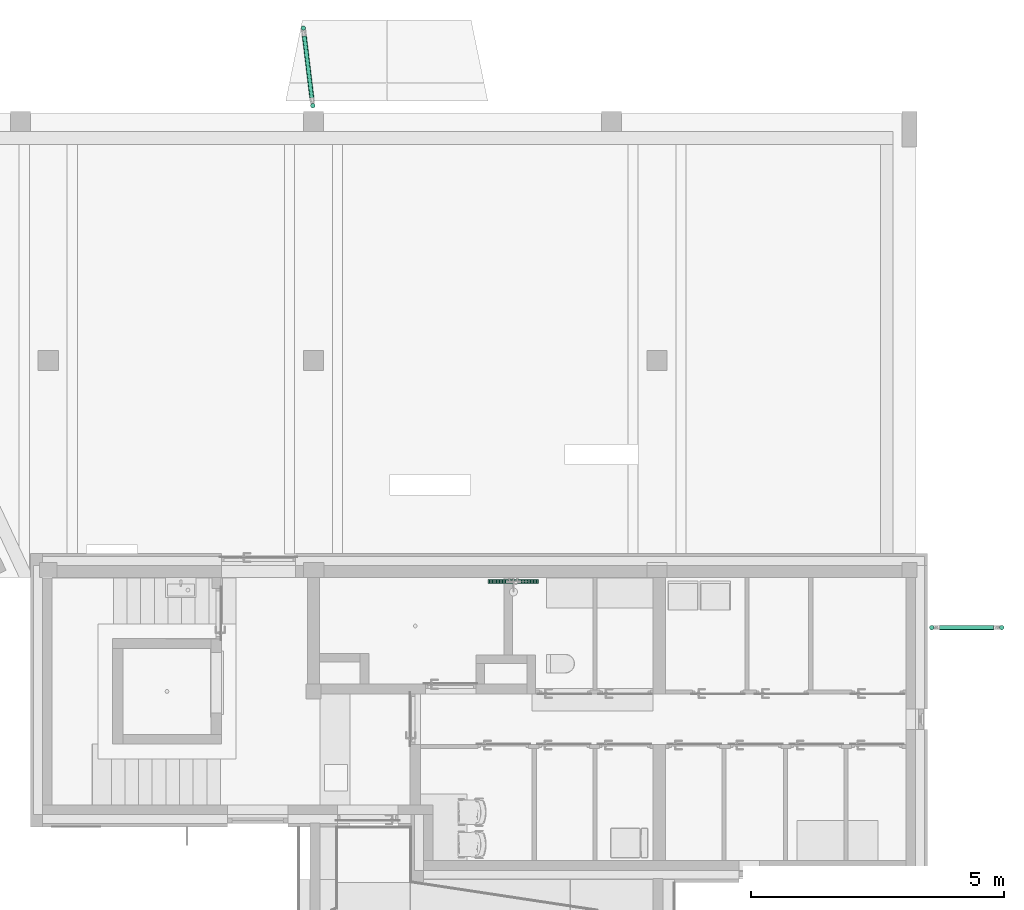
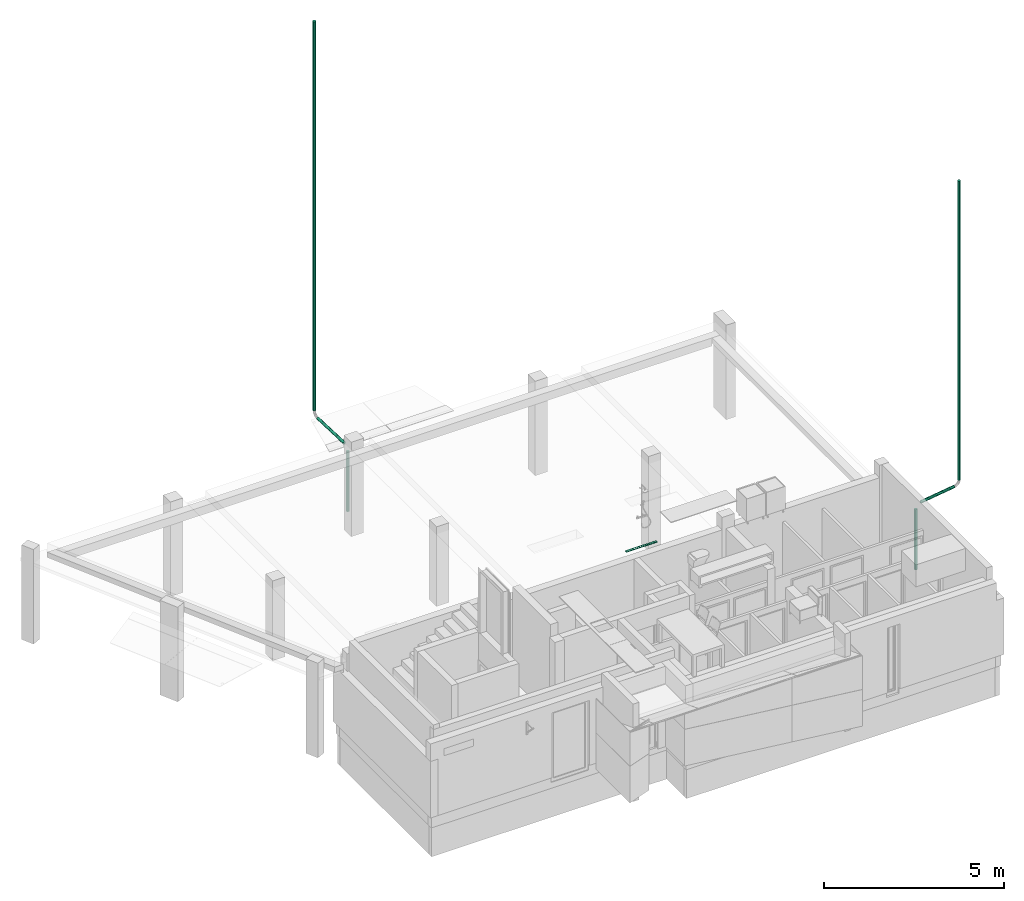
# One storey, part 11 of 55: 6 flow segments, 1 flow terminal.
"""IFC2X3 building model written with IfcOpenShell, lengths in millimetres."""

from ifc_helpers import new_model, entity, si_unit, converted_unit, direction, frame, frame_2d, origin, origin_2d_with_axis, place, context, subcontext, project, spatial, circle, extrude, faceted_brep, source, transform, mapped, material, type_object, type_shapes, element, save


model = new_model("IFC2X3")

# Units and contexts
model_context = context("Model", 3, precision=0.01, world=origin(), true_north=direction((6.123233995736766e-17, 1.0)))
plan_context = context("Plan", 3, precision=0.01, world=origin(), true_north=direction((6.123233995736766e-17, 1.0)))
body_context = subcontext(model_context, "Body", "Model", "MODEL_VIEW")
ifc_project = project(units=[si_unit("LENGTHUNIT", "METRE", prefix="MILLI"), converted_unit("PLANEANGLEUNIT", "DEGREE", entity("IfcPlaneAngleMeasure", 0.017453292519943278), si_unit("PLANEANGLEUNIT", "RADIAN"), dimensions=[0, 0, 0, 0, 0, 0, 0]), si_unit("AREAUNIT", "SQUARE_METRE")], contexts=[model_context, plan_context])

# Site, building, storey, space
site_placement = place(None, origin())
site = spatial("IfcSite", under=ifc_project, at=site_placement, Name="Default", CompositionType="ELEMENT")
building_placement = place(site_placement, origin())
building = spatial("IfcBuilding", under=site, at=building_placement, CompositionType="ELEMENT")
storey_placement = place(building_placement, origin())
storey = spatial("IfcBuildingStorey", under=building, at=storey_placement, Name="1K", CompositionType="ELEMENT", Elevation=0.0)
space_placement = place(storey_placement, origin())
space = spatial("IfcSpace", under=storey, at=space_placement, Name="1-0.6", CompositionType="ELEMENT", InteriorOrExteriorSpace="INTERNAL")

# Flow terminal
ifc_material_1 = material(Name="<Unnamed>")
distribution_element_type = type_object("IfcDistributionElementType", Name="HR_Plumbing-fixtures_Drain_Channel_Generic_v1:Default", material=ifc_material_1)
shared_shape = source(origin(), body_context, "Body", "Brep", [
    faceted_brep([(500.0, 80.0, 0.0), (-500.0, 80.0, 0.0), (-500.0, 0.0, 0.0), (500.0, 0.0, 0.0), (20.0, 70.0, 0.0), (25.0, 70.0, 0.0), (25.0, 10.0, 0.0), (20.0, 10.0, 0.0), (35.0, 70.0, 0.0), (40.0, 70.0, 0.0), (40.0, 10.0, 0.0), (35.0, 10.0, 0.0), (50.0, 70.0, 0.0), (55.0, 70.0, 0.0), (55.0, 10.0, 0.0), (50.0, 10.0, 0.0), (65.0, 70.0, 0.0), (70.0, 70.0, 0.0), (70.0, 10.0, 0.0), (65.0, 10.0, 0.0), (80.0, 70.0, 0.0), (85.0, 70.0, 0.0), (85.0, 10.0, 0.0), (80.0, 10.0, 0.0), (95.0, 70.0, 0.0), (100.0, 70.0, 0.0), (100.0, 10.0, 0.0), (95.0, 10.0, 0.0), (110.0, 70.0, 0.0), (115.0, 70.0, 0.0), (115.0, 10.0, 0.0), (110.0, 10.0, 0.0), (125.0, 70.0, 0.0), (130.0, 70.0, 0.0), (130.0, 10.0, 0.0), (125.0, 10.0, 0.0), (140.0, 70.0, 0.0), (145.0, 70.0, 0.0), (145.0, 10.0, 0.0), (140.0, 10.0, 0.0), (155.0, 70.0, 0.0), (160.0, 70.0, 0.0), (160.0, 10.0, 0.0), (155.0, 10.0, 0.0), (170.0, 70.0, 0.0), (175.0, 70.0, 0.0), (175.0, 10.0, 0.0), (170.0, 10.0, 0.0), (185.0, 70.0, 0.0), (190.0, 70.0, 0.0), (190.0, 10.0, 0.0), (185.0, 10.0, 0.0), (200.0, 70.0, 0.0), (205.0, 70.0, 0.0), (205.0, 10.0, 0.0), (200.0, 10.0, 0.0), (215.0, 70.0, 0.0), (220.0, 70.0, 0.0), (220.0, 10.0, 0.0), (215.0, 10.0, 0.0), (230.0, 70.0, 0.0), (235.0, 70.0, 0.0), (235.0, 10.0, 0.0), (230.0, 10.0, 0.0), (245.0, 70.0, 0.0), (250.0, 70.0, 0.0), (250.0, 10.0, 0.0), (245.0, 10.0, 0.0), (260.0, 70.0, 0.0), (265.0, 70.0, 0.0), (265.0, 10.0, 0.0), (260.0, 10.0, 0.0), (275.0, 70.0, 0.0), (280.0, 70.0, 0.0), (280.0, 10.0, 0.0), (275.0, 10.0, 0.0), (290.0, 70.0, 0.0), (295.0, 70.0, 0.0), (295.0, 10.0, 0.0), (290.0, 10.0, 0.0), (305.0, 70.0, 0.0), (310.0, 70.0, 0.0), (310.0, 10.0, 0.0), (305.0, 10.0, 0.0), (320.0, 70.0, 0.0), (325.0, 70.0, 0.0), (325.0, 10.0, 0.0), (320.0, 10.0, 0.0), (335.0, 70.0, 0.0), (340.0, 70.0, 0.0), (340.0, 10.0, 0.0), (335.0, 10.0, 0.0), (350.0, 70.0, 0.0), (355.0, 70.0, 0.0), (355.0, 10.0, 0.0), (350.0, 10.0, 0.0), (365.0, 70.0, 0.0), (370.0, 70.0, 0.0), (370.0, 10.0, 0.0), (365.0, 10.0, 0.0), (380.0, 70.0, 0.0), (385.0, 70.0, 0.0), (385.0, 10.0, 0.0), (380.0, 10.0, 0.0), (-25.0, 70.0, 0.0), (-20.0, 70.0, 0.0), (-20.0, 10.0, 0.0), (-25.0, 10.0, 0.0), (-40.0, 70.0, 0.0), (-35.0, 70.0, 0.0), (-35.0, 10.0, 0.0), (-40.0, 10.0, 0.0), (-55.0, 70.0, 0.0), (-50.0, 70.0, 0.0), (-50.0, 10.0, 0.0), (-55.0, 10.0, 0.0), (-70.0, 70.0, 0.0), (-65.0, 70.0, 0.0), (-65.0, 10.0, 0.0), (-70.0, 10.0, 0.0), (-85.0, 70.0, 0.0), (-80.0, 70.0, 0.0), (-80.0, 10.0, 0.0), (-85.0, 10.0, 0.0), (-100.0, 70.0, 0.0), (-95.0, 70.0, 0.0), (-95.0, 10.0, 0.0), (-100.0, 10.0, 0.0), (-115.0, 70.0, 0.0), (-110.0, 70.0, 0.0), (-110.0, 10.0, 0.0), (-115.0, 10.0, 0.0), (-130.0, 70.0, 0.0), (-125.0, 70.0, 0.0), (-125.0, 10.0, 0.0), (-130.0, 10.0, 0.0), (-145.0, 70.0, 0.0), (-140.0, 70.0, 0.0), (-140.0, 10.0, 0.0), (-145.0, 10.0, 0.0), (-160.0, 70.0, 0.0), (-155.0, 70.0, 0.0), (-155.0, 10.0, 0.0), (-160.0, 10.0, 0.0), (-175.0, 70.0, 0.0), (-170.0, 70.0, 0.0), (-170.0, 10.0, 0.0), (-175.0, 10.0, 0.0), (-190.0, 70.0, 0.0), (-185.0, 70.0, 0.0), (-185.0, 10.0, 0.0), (-190.0, 10.0, 0.0), (-205.0, 70.0, 0.0), (-200.0, 70.0, 0.0), (-200.0, 10.0, 0.0), (-205.0, 10.0, 0.0), (-220.0, 70.0, 0.0), (-215.0, 70.0, 0.0), (-215.0, 10.0, 0.0), (-220.0, 10.0, 0.0), (-235.0, 70.0, 0.0), (-230.0, 70.0, 0.0), (-230.0, 10.0, 0.0), (-235.0, 10.0, 0.0), (-250.0, 70.0, 0.0), (-245.0, 70.0, 0.0), (-245.0, 10.0, 0.0), (-250.0, 10.0, 0.0), (-265.0, 70.0, 0.0), (-260.0, 70.0, 0.0), (-260.0, 10.0, 0.0), (-265.0, 10.0, 0.0), (-280.0, 70.0, 0.0), (-275.0, 70.0, 0.0), (-275.0, 10.0, 0.0), (-280.0, 10.0, 0.0), (-295.0, 70.0, 0.0), (-290.0, 70.0, 0.0), (-290.0, 10.0, 0.0), (-295.0, 10.0, 0.0), (-310.0, 70.0, 0.0), (-305.0, 70.0, 0.0), (-305.0, 10.0, 0.0), (-310.0, 10.0, 0.0), (-325.0, 70.0, 0.0), (-320.0, 70.0, 0.0), (-320.0, 10.0, 0.0), (-325.0, 10.0, 0.0), (-340.0, 70.0, 0.0), (-335.0, 70.0, 0.0), (-335.0, 10.0, 0.0), (-340.0, 10.0, 0.0), (-355.0, 70.0, 0.0), (-350.0, 70.0, 0.0), (-350.0, 10.0, 0.0), (-355.0, 10.0, 0.0), (-370.0, 70.0, 0.0), (-365.0, 70.0, 0.0), (-365.0, 10.0, 0.0), (-370.0, 10.0, 0.0), (-385.0, 70.0, 0.0), (-380.0, 70.0, 0.0), (-380.0, 10.0, 0.0), (-385.0, 10.0, 0.0), (395.0, 70.0, 0.0), (400.0, 70.0, 0.0), (400.0, 10.0, 0.0), (395.0, 10.0, 0.0), (410.0, 70.0, 0.0), (415.0, 70.0, 0.0), (415.0, 10.0, 0.0), (410.0, 10.0, 0.0), (425.0, 70.0, 0.0), (430.0, 70.0, 0.0), (430.0, 10.0, 0.0), (425.0, 10.0, 0.0), (440.0, 70.0, 0.0), (445.0, 70.0, 0.0), (445.0, 10.0, 0.0), (440.0, 10.0, 0.0), (455.0, 70.0, 0.0), (460.0, 70.0, 0.0), (460.0, 10.0, 0.0), (455.0, 10.0, 0.0), (470.0, 70.0, 0.0), (475.0, 70.0, 0.0), (475.0, 10.0, 0.0), (470.0, 10.0, 0.0), (485.0, 70.0, 0.0), (490.0, 70.0, 0.0), (490.0, 10.0, 0.0), (485.0, 10.0, 0.0), (-400.0, 70.0, 0.0), (-395.0, 70.0, 0.0), (-395.0, 10.0, 0.0), (-400.0, 10.0, 0.0), (-415.0, 70.0, 0.0), (-410.0, 70.0, 0.0), (-410.0, 10.0, 0.0), (-415.0, 10.0, 0.0), (-430.0, 70.0, 0.0), (-425.0, 70.0, 0.0), (-425.0, 10.0, 0.0), (-430.0, 10.0, 0.0), (-445.0, 70.0, 0.0), (-440.0, 70.0, 0.0), (-440.0, 10.0, 0.0), (-445.0, 10.0, 0.0), (-460.0, 70.0, 0.0), (-455.0, 70.0, 0.0), (-455.0, 10.0, 0.0), (-460.0, 10.0, 0.0), (-475.0, 70.0, 0.0), (-470.0, 70.0, 0.0), (-470.0, 10.0, 0.0), (-475.0, 10.0, 0.0), (-490.0, 70.0, 0.0), (-485.0, 70.0, 0.0), (-485.0, 10.0, 0.0), (-490.0, 10.0, 0.0), (-10.0, 70.0, 0.0), (-5.0, 70.0, 0.0), (-5.0, 10.0, 0.0), (-10.0, 10.0, 0.0), (5.0, 70.0, 0.0), (10.0, 70.0, 0.0), (10.0, 10.0, 0.0), (5.0, 10.0, 0.0), (-500.0, 80.0, -20.0), (500.0, 80.0, -20.0), (500.0, 0.0, -20.0), (-500.0, 0.0, -20.0), (498.5000000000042, 78.500000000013, -20.0), (-498.49999999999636, 78.500000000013, -20.0), (-498.49999999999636, 1.5000000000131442, -20.0), (498.5000000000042, 1.5000000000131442, -20.0), (498.5000000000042, 78.500000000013, -1.5000000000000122), (498.5000000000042, 1.5000000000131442, -1.5000000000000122), (-498.49999999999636, 1.5000000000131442, -1.5000000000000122), (-498.49999999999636, 78.500000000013, -1.5000000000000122), (25.0, 70.0, -1.5000000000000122), (20.0, 70.0, -1.5000000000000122), (20.0, 10.0, -1.5000000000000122), (25.0, 10.0, -1.5000000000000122), (40.0, 70.0, -1.5000000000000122), (35.0, 70.0, -1.5000000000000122), (35.0, 10.0, -1.5000000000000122), (40.0, 10.0, -1.5000000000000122), (55.0, 70.0, -1.5000000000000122), (50.0, 70.0, -1.5000000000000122), (50.0, 10.0, -1.5000000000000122), (55.0, 10.0, -1.5000000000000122), (70.0, 70.0, -1.5000000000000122), (65.0, 70.0, -1.5000000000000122), (65.0, 10.0, -1.5000000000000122), (70.0, 10.0, -1.5000000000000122), (85.0, 70.0, -1.5000000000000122), (80.0, 70.0, -1.5000000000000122), (80.0, 10.0, -1.5000000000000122), (85.0, 10.0, -1.5000000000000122), (100.0, 70.0, -1.5000000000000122), (95.0, 70.0, -1.5000000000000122), (95.0, 10.0, -1.5000000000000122), (100.0, 10.0, -1.5000000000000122), (115.0, 70.0, -1.5000000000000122), (110.0, 70.0, -1.5000000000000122), (110.0, 10.0, -1.5000000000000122), (115.0, 10.0, -1.5000000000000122), (130.0, 70.0, -1.5000000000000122), (125.0, 70.0, -1.5000000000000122), (125.0, 10.0, -1.5000000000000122), (130.0, 10.0, -1.5000000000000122), (145.0, 70.0, -1.5000000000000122), (140.0, 70.0, -1.5000000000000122), (140.0, 10.0, -1.5000000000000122), (145.0, 10.0, -1.5000000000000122), (160.0, 70.0, -1.5000000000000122), (155.0, 70.0, -1.5000000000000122), (155.0, 10.0, -1.5000000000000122), (160.0, 10.0, -1.5000000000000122), (175.0, 70.0, -1.5000000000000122), (170.0, 70.0, -1.5000000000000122), (170.0, 10.0, -1.5000000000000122), (175.0, 10.0, -1.5000000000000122), (190.0, 70.0, -1.5000000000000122), (185.0, 70.0, -1.5000000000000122), (185.0, 10.0, -1.5000000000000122), (190.0, 10.0, -1.5000000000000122), (205.0, 70.0, -1.5000000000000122), (200.0, 70.0, -1.5000000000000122), (200.0, 10.0, -1.5000000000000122), (205.0, 10.0, -1.5000000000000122), (220.0, 70.0, -1.5000000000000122), (215.0, 70.0, -1.5000000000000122), (215.0, 10.0, -1.5000000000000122), (220.0, 10.0, -1.5000000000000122), (235.0, 70.0, -1.5000000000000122), (230.0, 70.0, -1.5000000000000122), (230.0, 10.0, -1.5000000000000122), (235.0, 10.0, -1.5000000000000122), (250.0, 70.0, -1.5000000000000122), (245.0, 70.0, -1.5000000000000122), (245.0, 10.0, -1.5000000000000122), (250.0, 10.0, -1.5000000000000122), (265.0, 70.0, -1.5000000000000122), (260.0, 70.0, -1.5000000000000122), (260.0, 10.0, -1.5000000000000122), (265.0, 10.0, -1.5000000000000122), (280.0, 70.0, -1.5000000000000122), (275.0, 70.0, -1.5000000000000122), (275.0, 10.0, -1.5000000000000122), (280.0, 10.0, -1.5000000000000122), (295.0, 70.0, -1.5000000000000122), (290.0, 70.0, -1.5000000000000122), (290.0, 10.0, -1.5000000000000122), (295.0, 10.0, -1.5000000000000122), (310.0, 70.0, -1.5000000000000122), (305.0, 70.0, -1.5000000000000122), (305.0, 10.0, -1.5000000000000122), (310.0, 10.0, -1.5000000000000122), (325.0, 70.0, -1.5000000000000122), (320.0, 70.0, -1.5000000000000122), (320.0, 10.0, -1.5000000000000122), (325.0, 10.0, -1.5000000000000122), (340.0, 70.0, -1.5000000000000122), (335.0, 70.0, -1.5000000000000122), (335.0, 10.0, -1.5000000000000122), (340.0, 10.0, -1.5000000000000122), (355.0, 70.0, -1.5000000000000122), (350.0, 70.0, -1.5000000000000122), (350.0, 10.0, -1.5000000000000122), (355.0, 10.0, -1.5000000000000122), (370.0, 70.0, -1.5000000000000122), (365.0, 70.0, -1.5000000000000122), (365.0, 10.0, -1.5000000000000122), (370.0, 10.0, -1.5000000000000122), (385.0, 70.0, -1.5000000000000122), (380.0, 70.0, -1.5000000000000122), (380.0, 10.0, -1.5000000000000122), (385.0, 10.0, -1.5000000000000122), (-20.0, 70.0, -1.5000000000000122), (-25.0, 70.0, -1.5000000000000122), (-25.0, 10.0, -1.5000000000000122), (-20.0, 10.0, -1.5000000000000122), (-35.0, 70.0, -1.5000000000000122), (-40.0, 70.0, -1.5000000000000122), (-40.0, 10.0, -1.5000000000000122), (-35.0, 10.0, -1.5000000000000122), (-50.0, 70.0, -1.5000000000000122), (-55.0, 70.0, -1.5000000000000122), (-55.0, 10.0, -1.5000000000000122), (-50.0, 10.0, -1.5000000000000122), (-65.0, 70.0, -1.5000000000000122), (-70.0, 70.0, -1.5000000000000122), (-70.0, 10.0, -1.5000000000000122), (-65.0, 10.0, -1.5000000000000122), (-80.0, 70.0, -1.5000000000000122), (-85.0, 70.0, -1.5000000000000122), (-85.0, 10.0, -1.5000000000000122), (-80.0, 10.0, -1.5000000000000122), (-95.0, 70.0, -1.5000000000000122), (-100.0, 70.0, -1.5000000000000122), (-100.0, 10.0, -1.5000000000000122), (-95.0, 10.0, -1.5000000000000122), (-110.0, 70.0, -1.5000000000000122), (-115.0, 70.0, -1.5000000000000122), (-115.0, 10.0, -1.5000000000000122), (-110.0, 10.0, -1.5000000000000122), (-125.0, 70.0, -1.5000000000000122), (-130.0, 70.0, -1.5000000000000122), (-130.0, 10.0, -1.5000000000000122), (-125.0, 10.0, -1.5000000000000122), (-140.0, 70.0, -1.5000000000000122), (-145.0, 70.0, -1.5000000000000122), (-145.0, 10.0, -1.5000000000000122), (-140.0, 10.0, -1.5000000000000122), (-155.0, 70.0, -1.5000000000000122), (-160.0, 70.0, -1.5000000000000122), (-160.0, 10.0, -1.5000000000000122), (-155.0, 10.0, -1.5000000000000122), (-170.0, 70.0, -1.5000000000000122), (-175.0, 70.0, -1.5000000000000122), (-175.0, 10.0, -1.5000000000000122), (-170.0, 10.0, -1.5000000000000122), (-185.0, 70.0, -1.5000000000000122), (-190.0, 70.0, -1.5000000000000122), (-190.0, 10.0, -1.5000000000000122), (-185.0, 10.0, -1.5000000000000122), (-200.0, 70.0, -1.5000000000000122), (-205.0, 70.0, -1.5000000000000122), (-205.0, 10.0, -1.5000000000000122), (-200.0, 10.0, -1.5000000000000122), (-215.0, 70.0, -1.5000000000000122), (-220.0, 70.0, -1.5000000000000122), (-220.0, 10.0, -1.5000000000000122), (-215.0, 10.0, -1.5000000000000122), (-230.0, 70.0, -1.5000000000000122), (-235.0, 70.0, -1.5000000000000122), (-235.0, 10.0, -1.5000000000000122), (-230.0, 10.0, -1.5000000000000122), (-245.0, 70.0, -1.5000000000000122), (-250.0, 70.0, -1.5000000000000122), (-250.0, 10.0, -1.5000000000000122), (-245.0, 10.0, -1.5000000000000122), (-260.0, 70.0, -1.5000000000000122), (-265.0, 70.0, -1.5000000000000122), (-265.0, 10.0, -1.5000000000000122), (-260.0, 10.0, -1.5000000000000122), (-275.0, 70.0, -1.5000000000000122), (-280.0, 70.0, -1.5000000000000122), (-280.0, 10.0, -1.5000000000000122), (-275.0, 10.0, -1.5000000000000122), (-290.0, 70.0, -1.5000000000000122), (-295.0, 70.0, -1.5000000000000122), (-295.0, 10.0, -1.5000000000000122), (-290.0, 10.0, -1.5000000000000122), (-305.0, 70.0, -1.5000000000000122), (-310.0, 70.0, -1.5000000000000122), (-310.0, 10.0, -1.5000000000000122), (-305.0, 10.0, -1.5000000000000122), (-320.0, 70.0, -1.5000000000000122), (-325.0, 70.0, -1.5000000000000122), (-325.0, 10.0, -1.5000000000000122), (-320.0, 10.0, -1.5000000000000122), (-335.0, 70.0, -1.5000000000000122), (-340.0, 70.0, -1.5000000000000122), (-340.0, 10.0, -1.5000000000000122), (-335.0, 10.0, -1.5000000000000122), (-350.0, 70.0, -1.5000000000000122), (-355.0, 70.0, -1.5000000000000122), (-355.0, 10.0, -1.5000000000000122), (-350.0, 10.0, -1.5000000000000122), (-365.0, 70.0, -1.5000000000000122), (-370.0, 70.0, -1.5000000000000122), (-370.0, 10.0, -1.5000000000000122), (-365.0, 10.0, -1.5000000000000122), (-380.0, 70.0, -1.5000000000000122), (-385.0, 70.0, -1.5000000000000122), (-385.0, 10.0, -1.5000000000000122), (-380.0, 10.0, -1.5000000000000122), (400.0, 70.0, -1.5000000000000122), (395.0, 70.0, -1.5000000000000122), (395.0, 10.0, -1.5000000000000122), (400.0, 10.0, -1.5000000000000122), (415.0, 70.0, -1.5000000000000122), (410.0, 70.0, -1.5000000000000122), (410.0, 10.0, -1.5000000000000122), (415.0, 10.0, -1.5000000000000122), (430.0, 70.0, -1.5000000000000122), (425.0, 70.0, -1.5000000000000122), (425.0, 10.0, -1.5000000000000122), (430.0, 10.0, -1.5000000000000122), (445.0, 70.0, -1.5000000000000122), (440.0, 70.0, -1.5000000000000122), (440.0, 10.0, -1.5000000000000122), (445.0, 10.0, -1.5000000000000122), (460.0, 70.0, -1.5000000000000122), (455.0, 70.0, -1.5000000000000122), (455.0, 10.0, -1.5000000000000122), (460.0, 10.0, -1.5000000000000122), (475.0, 70.0, -1.5000000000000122), (470.0, 70.0, -1.5000000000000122), (470.0, 10.0, -1.5000000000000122), (475.0, 10.0, -1.5000000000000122), (490.0, 70.0, -1.5000000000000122), (485.0, 70.0, -1.5000000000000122), (485.0, 10.0, -1.5000000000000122), (490.0, 10.0, -1.5000000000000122), (-395.0, 70.0, -1.5000000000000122), (-400.0, 70.0, -1.5000000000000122), (-400.0, 10.0, -1.5000000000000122), (-395.0, 10.0, -1.5000000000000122), (-410.0, 70.0, -1.5000000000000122), (-415.0, 70.0, -1.5000000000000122), (-415.0, 10.0, -1.5000000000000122), (-410.0, 10.0, -1.5000000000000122), (-425.0, 70.0, -1.5000000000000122), (-430.0, 70.0, -1.5000000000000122), (-430.0, 10.0, -1.5000000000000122), (-425.0, 10.0, -1.5000000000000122), (-440.0, 70.0, -1.5000000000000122), (-445.0, 70.0, -1.5000000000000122), (-445.0, 10.0, -1.5000000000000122), (-440.0, 10.0, -1.5000000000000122), (-455.0, 70.0, -1.5000000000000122), (-460.0, 70.0, -1.5000000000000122), (-460.0, 10.0, -1.5000000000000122), (-455.0, 10.0, -1.5000000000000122), (-470.0, 70.0, -1.5000000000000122), (-475.0, 70.0, -1.5000000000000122), (-475.0, 10.0, -1.5000000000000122), (-470.0, 10.0, -1.5000000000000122), (-485.0, 70.0, -1.5000000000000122), (-490.0, 70.0, -1.5000000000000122), (-490.0, 10.0, -1.5000000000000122), (-485.0, 10.0, -1.5000000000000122), (-5.0, 70.0, -1.5000000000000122), (-10.0, 70.0, -1.5000000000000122), (-10.0, 10.0, -1.5000000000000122), (-5.0, 10.0, -1.5000000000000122), (10.0, 70.0, -1.5000000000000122), (5.0, 70.0, -1.5000000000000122), (5.0, 10.0, -1.5000000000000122), (10.0, 10.0, -1.5000000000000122)], [[[0, 1, 2, 3], [4, 5, 6, 7], [8, 9, 10, 11], [12, 13, 14, 15], [16, 17, 18, 19], [20, 21, 22, 23], [24, 25, 26, 27], [28, 29, 30, 31], [32, 33, 34, 35], [36, 37, 38, 39], [40, 41, 42, 43], [44, 45, 46, 47], [48, 49, 50, 51], [52, 53, 54, 55], [56, 57, 58, 59], [60, 61, 62, 63], [64, 65, 66, 67], [68, 69, 70, 71], [72, 73, 74, 75], [76, 77, 78, 79], [80, 81, 82, 83], [84, 85, 86, 87], [88, 89, 90, 91], [92, 93, 94, 95], [96, 97, 98, 99], [100, 101, 102, 103], [104, 105, 106, 107], [108, 109, 110, 111], [112, 113, 114, 115], [116, 117, 118, 119], [120, 121, 122, 123], [124, 125, 126, 127], [128, 129, 130, 131], [132, 133, 134, 135], [136, 137, 138, 139], [140, 141, 142, 143], [144, 145, 146, 147], [148, 149, 150, 151], [152, 153, 154, 155], [156, 157, 158, 159], [160, 161, 162, 163], [164, 165, 166, 167], [168, 169, 170, 171], [172, 173, 174, 175], [176, 177, 178, 179], [180, 181, 182, 183], [184, 185, 186, 187], [188, 189, 190, 191], [192, 193, 194, 195], [196, 197, 198, 199], [200, 201, 202, 203], [204, 205, 206, 207], [208, 209, 210, 211], [212, 213, 214, 215], [216, 217, 218, 219], [220, 221, 222, 223], [224, 225, 226, 227], [228, 229, 230, 231], [232, 233, 234, 235], [236, 237, 238, 239], [240, 241, 242, 243], [244, 245, 246, 247], [248, 249, 250, 251], [252, 253, 254, 255], [256, 257, 258, 259], [260, 261, 262, 263], [264, 265, 266, 267]], [[268, 269, 270, 271], [272, 273, 274, 275]], [[1, 0, 269, 268]], [[2, 1, 268, 271]], [[3, 2, 271, 270]], [[0, 3, 270, 269]], [[276, 277, 278, 279], [280, 281, 282, 283], [284, 285, 286, 287], [288, 289, 290, 291], [292, 293, 294, 295], [296, 297, 298, 299], [300, 301, 302, 303], [304, 305, 306, 307], [308, 309, 310, 311], [312, 313, 314, 315], [316, 317, 318, 319], [320, 321, 322, 323], [324, 325, 326, 327], [328, 329, 330, 331], [332, 333, 334, 335], [336, 337, 338, 339], [340, 341, 342, 343], [344, 345, 346, 347], [348, 349, 350, 351], [352, 353, 354, 355], [356, 357, 358, 359], [360, 361, 362, 363], [364, 365, 366, 367], [368, 369, 370, 371], [372, 373, 374, 375], [376, 377, 378, 379], [380, 381, 382, 383], [384, 385, 386, 387], [388, 389, 390, 391], [392, 393, 394, 395], [396, 397, 398, 399], [400, 401, 402, 403], [404, 405, 406, 407], [408, 409, 410, 411], [412, 413, 414, 415], [416, 417, 418, 419], [420, 421, 422, 423], [424, 425, 426, 427], [428, 429, 430, 431], [432, 433, 434, 435], [436, 437, 438, 439], [440, 441, 442, 443], [444, 445, 446, 447], [448, 449, 450, 451], [452, 453, 454, 455], [456, 457, 458, 459], [460, 461, 462, 463], [464, 465, 466, 467], [468, 469, 470, 471], [472, 473, 474, 475], [476, 477, 478, 479], [480, 481, 482, 483], [484, 485, 486, 487], [488, 489, 490, 491], [492, 493, 494, 495], [496, 497, 498, 499], [500, 501, 502, 503], [504, 505, 506, 507], [508, 509, 510, 511], [512, 513, 514, 515], [516, 517, 518, 519], [520, 521, 522, 523], [524, 525, 526, 527], [528, 529, 530, 531], [532, 533, 534, 535], [536, 537, 538, 539], [540, 541, 542, 543]], [[276, 279, 273, 272]], [[279, 278, 274, 273]], [[278, 277, 275, 274]], [[277, 276, 272, 275]], [[5, 4, 281, 280]], [[4, 7, 282, 281]], [[7, 6, 283, 282]], [[6, 5, 280, 283]], [[9, 8, 285, 284]], [[8, 11, 286, 285]], [[11, 10, 287, 286]], [[10, 9, 284, 287]], [[13, 12, 289, 288]], [[12, 15, 290, 289]], [[15, 14, 291, 290]], [[14, 13, 288, 291]], [[17, 16, 293, 292]], [[16, 19, 294, 293]], [[19, 18, 295, 294]], [[18, 17, 292, 295]], [[21, 20, 297, 296]], [[20, 23, 298, 297]], [[23, 22, 299, 298]], [[22, 21, 296, 299]], [[25, 24, 301, 300]], [[24, 27, 302, 301]], [[27, 26, 303, 302]], [[26, 25, 300, 303]], [[29, 28, 305, 304]], [[28, 31, 306, 305]], [[31, 30, 307, 306]], [[30, 29, 304, 307]], [[33, 32, 309, 308]], [[32, 35, 310, 309]], [[35, 34, 311, 310]], [[34, 33, 308, 311]], [[37, 36, 313, 312]], [[36, 39, 314, 313]], [[39, 38, 315, 314]], [[38, 37, 312, 315]], [[41, 40, 317, 316]], [[40, 43, 318, 317]], [[43, 42, 319, 318]], [[42, 41, 316, 319]], [[45, 44, 321, 320]], [[44, 47, 322, 321]], [[47, 46, 323, 322]], [[46, 45, 320, 323]], [[49, 48, 325, 324]], [[48, 51, 326, 325]], [[51, 50, 327, 326]], [[50, 49, 324, 327]], [[53, 52, 329, 328]], [[52, 55, 330, 329]], [[55, 54, 331, 330]], [[54, 53, 328, 331]], [[57, 56, 333, 332]], [[56, 59, 334, 333]], [[59, 58, 335, 334]], [[58, 57, 332, 335]], [[61, 60, 337, 336]], [[60, 63, 338, 337]], [[63, 62, 339, 338]], [[62, 61, 336, 339]], [[65, 64, 341, 340]], [[64, 67, 342, 341]], [[67, 66, 343, 342]], [[66, 65, 340, 343]], [[69, 68, 345, 344]], [[68, 71, 346, 345]], [[71, 70, 347, 346]], [[70, 69, 344, 347]], [[73, 72, 349, 348]], [[72, 75, 350, 349]], [[75, 74, 351, 350]], [[74, 73, 348, 351]], [[77, 76, 353, 352]], [[76, 79, 354, 353]], [[79, 78, 355, 354]], [[78, 77, 352, 355]], [[81, 80, 357, 356]], [[80, 83, 358, 357]], [[83, 82, 359, 358]], [[82, 81, 356, 359]], [[85, 84, 361, 360]], [[84, 87, 362, 361]], [[87, 86, 363, 362]], [[86, 85, 360, 363]], [[89, 88, 365, 364]], [[88, 91, 366, 365]], [[91, 90, 367, 366]], [[90, 89, 364, 367]], [[93, 92, 369, 368]], [[92, 95, 370, 369]], [[95, 94, 371, 370]], [[94, 93, 368, 371]], [[97, 96, 373, 372]], [[96, 99, 374, 373]], [[99, 98, 375, 374]], [[98, 97, 372, 375]], [[101, 100, 377, 376]], [[100, 103, 378, 377]], [[103, 102, 379, 378]], [[102, 101, 376, 379]], [[105, 104, 381, 380]], [[104, 107, 382, 381]], [[107, 106, 383, 382]], [[106, 105, 380, 383]], [[109, 108, 385, 384]], [[108, 111, 386, 385]], [[111, 110, 387, 386]], [[110, 109, 384, 387]], [[113, 112, 389, 388]], [[112, 115, 390, 389]], [[115, 114, 391, 390]], [[114, 113, 388, 391]], [[117, 116, 393, 392]], [[116, 119, 394, 393]], [[119, 118, 395, 394]], [[118, 117, 392, 395]], [[121, 120, 397, 396]], [[120, 123, 398, 397]], [[123, 122, 399, 398]], [[122, 121, 396, 399]], [[125, 124, 401, 400]], [[124, 127, 402, 401]], [[127, 126, 403, 402]], [[126, 125, 400, 403]], [[129, 128, 405, 404]], [[128, 131, 406, 405]], [[131, 130, 407, 406]], [[130, 129, 404, 407]], [[133, 132, 409, 408]], [[132, 135, 410, 409]], [[135, 134, 411, 410]], [[134, 133, 408, 411]], [[137, 136, 413, 412]], [[136, 139, 414, 413]], [[139, 138, 415, 414]], [[138, 137, 412, 415]], [[141, 140, 417, 416]], [[140, 143, 418, 417]], [[143, 142, 419, 418]], [[142, 141, 416, 419]], [[145, 144, 421, 420]], [[144, 147, 422, 421]], [[147, 146, 423, 422]], [[146, 145, 420, 423]], [[149, 148, 425, 424]], [[148, 151, 426, 425]], [[151, 150, 427, 426]], [[150, 149, 424, 427]], [[153, 152, 429, 428]], [[152, 155, 430, 429]], [[155, 154, 431, 430]], [[154, 153, 428, 431]], [[157, 156, 433, 432]], [[156, 159, 434, 433]], [[159, 158, 435, 434]], [[158, 157, 432, 435]], [[161, 160, 437, 436]], [[160, 163, 438, 437]], [[163, 162, 439, 438]], [[162, 161, 436, 439]], [[165, 164, 441, 440]], [[164, 167, 442, 441]], [[167, 166, 443, 442]], [[166, 165, 440, 443]], [[169, 168, 445, 444]], [[168, 171, 446, 445]], [[171, 170, 447, 446]], [[170, 169, 444, 447]], [[173, 172, 449, 448]], [[172, 175, 450, 449]], [[175, 174, 451, 450]], [[174, 173, 448, 451]], [[177, 176, 453, 452]], [[176, 179, 454, 453]], [[179, 178, 455, 454]], [[178, 177, 452, 455]], [[181, 180, 457, 456]], [[180, 183, 458, 457]], [[183, 182, 459, 458]], [[182, 181, 456, 459]], [[185, 184, 461, 460]], [[184, 187, 462, 461]], [[187, 186, 463, 462]], [[186, 185, 460, 463]], [[189, 188, 465, 464]], [[188, 191, 466, 465]], [[191, 190, 467, 466]], [[190, 189, 464, 467]], [[193, 192, 469, 468]], [[192, 195, 470, 469]], [[195, 194, 471, 470]], [[194, 193, 468, 471]], [[197, 196, 473, 472]], [[196, 199, 474, 473]], [[199, 198, 475, 474]], [[198, 197, 472, 475]], [[201, 200, 477, 476]], [[200, 203, 478, 477]], [[203, 202, 479, 478]], [[202, 201, 476, 479]], [[205, 204, 481, 480]], [[204, 207, 482, 481]], [[207, 206, 483, 482]], [[206, 205, 480, 483]], [[209, 208, 485, 484]], [[208, 211, 486, 485]], [[211, 210, 487, 486]], [[210, 209, 484, 487]], [[213, 212, 489, 488]], [[212, 215, 490, 489]], [[215, 214, 491, 490]], [[214, 213, 488, 491]], [[217, 216, 493, 492]], [[216, 219, 494, 493]], [[219, 218, 495, 494]], [[218, 217, 492, 495]], [[221, 220, 497, 496]], [[220, 223, 498, 497]], [[223, 222, 499, 498]], [[222, 221, 496, 499]], [[225, 224, 501, 500]], [[224, 227, 502, 501]], [[227, 226, 503, 502]], [[226, 225, 500, 503]], [[229, 228, 505, 504]], [[228, 231, 506, 505]], [[231, 230, 507, 506]], [[230, 229, 504, 507]], [[233, 232, 509, 508]], [[232, 235, 510, 509]], [[235, 234, 511, 510]], [[234, 233, 508, 511]], [[237, 236, 513, 512]], [[236, 239, 514, 513]], [[239, 238, 515, 514]], [[238, 237, 512, 515]], [[241, 240, 517, 516]], [[240, 243, 518, 517]], [[243, 242, 519, 518]], [[242, 241, 516, 519]], [[245, 244, 521, 520]], [[244, 247, 522, 521]], [[247, 246, 523, 522]], [[246, 245, 520, 523]], [[249, 248, 525, 524]], [[248, 251, 526, 525]], [[251, 250, 527, 526]], [[250, 249, 524, 527]], [[253, 252, 529, 528]], [[252, 255, 530, 529]], [[255, 254, 531, 530]], [[254, 253, 528, 531]], [[257, 256, 533, 532]], [[256, 259, 534, 533]], [[259, 258, 535, 534]], [[258, 257, 532, 535]], [[261, 260, 537, 536]], [[260, 263, 538, 537]], [[263, 262, 539, 538]], [[262, 261, 536, 539]], [[265, 264, 541, 540]], [[264, 267, 542, 541]], [[267, 266, 543, 542]], [[266, 265, 540, 543]]]),
])
type_shapes(distribution_element_type, [shared_shape])
flow_terminal_placement = place(space_placement, frame((9132.999996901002, 6364.999959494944, 3125.0), z_axis=(0.0, 0.0, 1.0), x_axis=(-1.0, 0.0, 0.0)))
element("IfcFlowTerminal", 1, at=flow_terminal_placement, inside=space, type_object=distribution_element_type, material=ifc_material_1, Name="HR_Plumbing-fixtures_Drain_Channel_Generic_v1:Default", ObjectType="HR_Plumbing-fixtures_Drain_Channel_Generic_v1:Default", context=body_context, shape_type="MappedRepresentation", body=[
    mapped(shared_shape, transform((0.0, 0.0, 0.0), scale=1.0)),
])

# Flow segments
ifc_material_2 = material(Name="_K. Metall. Plekk. Värvitud. Valge")
pipe_segment_type = type_object("IfcPipeSegmentType", Name="Pipe Types:Default", PredefinedType="NOTDEFINED", material=ifc_material_2)
flow_segment_1_placement = place(storey_placement, frame((4928.905750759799, 17236.98440047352, 15746.811229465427)))
element("IfcFlowSegment", 2, at=flow_segment_1_placement, inside=storey, type_object=pipe_segment_type, Name="Pipe Types:Default", ObjectType="Pipe Types:Default", context=body_context, shape_type="SweptSolid", body=[
    extrude(circle(Radius=44.45, at=frame_2d((0.0, 2.1657342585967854e-12), x_axis=(1.0, 0.0))), frame((46.04527223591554, 46.04527223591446, -13200.749452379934)), (0.0, 0.0, 1.0), 13200.749452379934),
])
flow_segment_2_placement = place(storey_placement, frame((4948.217945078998, 15893.617568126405, 2413.11741846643)))
element("IfcFlowSegment", 3, at=flow_segment_2_placement, inside=storey, type_object=pipe_segment_type, Name="Pipe Types:Default", ObjectType="Pipe Types:Default", context=body_context, shape_type="SweptSolid", body=[
    extrude(circle(Radius=44.45, at=origin_2d_with_axis()), frame((193.7689073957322, 9.174191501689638, -197.01460503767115), z_axis=(-0.11924747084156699, 0.9853567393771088, 0.1218693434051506), x_axis=(-0.9927565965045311, -0.1201429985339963, 0.0)), (0.0, 0.0, 1.0), 1241.4989047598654),
])
flow_segment_3_placement = place(storey_placement, frame((5114.931805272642, 15699.827887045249, 2037.444506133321)))
element("IfcFlowSegment", 4, at=flow_segment_3_placement, inside=storey, type_object=pipe_segment_type, Name="Pipe Types:Default", ObjectType="Pipe Types:Default", context=body_context, shape_type="SweptSolid", body=[
    extrude(circle(Radius=44.45, at=origin_2d_with_axis()), frame((46.04527223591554, 46.04527223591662, -2040.74945237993)), (0.0, 0.0, 1.0), 2040.74945237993),
])
flow_segment_4_placement = place(storey_placement, frame((18753.793752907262, 5368.067334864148, 2552.221685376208)))
element("IfcFlowSegment", 5, at=flow_segment_4_placement, inside=storey, type_object=pipe_segment_type, Name="Pipe Types:Default", ObjectType="Pipe Types:Default", context=body_context, shape_type="SweptSolid", body=[
    extrude(circle(Radius=44.45, at=frame_2d((0.0, -1.0828671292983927e-12), x_axis=(1.0, 0.0))), frame((46.04527223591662, 46.04527223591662, 0.0)), (0.0, 0.0, 1.0), 10143.52838719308),
])
flow_segment_5_placement = place(storey_placement, frame((17560.631054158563, 5368.067334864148, 2177.0716829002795)))
element("IfcFlowSegment", 6, at=flow_segment_5_placement, inside=storey, type_object=pipe_segment_type, Name="Pipe Types:Default", ObjectType="Pipe Types:Default", context=body_context, shape_type="SweptSolid", body=[
    extrude(circle(Radius=44.45, at=origin_2d_with_axis()), frame((7.781516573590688, 46.04527223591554, 45.61268789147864), z_axis=(0.9902680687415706, 0.0, 0.1391731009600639), x_axis=(0.0, 1.0, 0.0)), (0.0, 0.0, 1.0), 1087.0567743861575),
])
flow_segment_6_placement = place(storey_placement, frame((17367.41845666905, 5368.067334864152, 0.9077312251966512)))
element("IfcFlowSegment", 7, at=flow_segment_6_placement, inside=storey, type_object=pipe_segment_type, Name="Pipe Types:Default", ObjectType="Pipe Types:Default", context=body_context, shape_type="SweptSolid", body=[
    extrude(circle(Radius=44.45, at=frame_2d((0.0, -1.0828671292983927e-12), x_axis=(1.0, 0.0))), frame((46.04527223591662, 46.04527223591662, 0.0)), (0.0, 0.0, 1.0), 2043.5283871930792),
])

save(model, "model.ifc")
